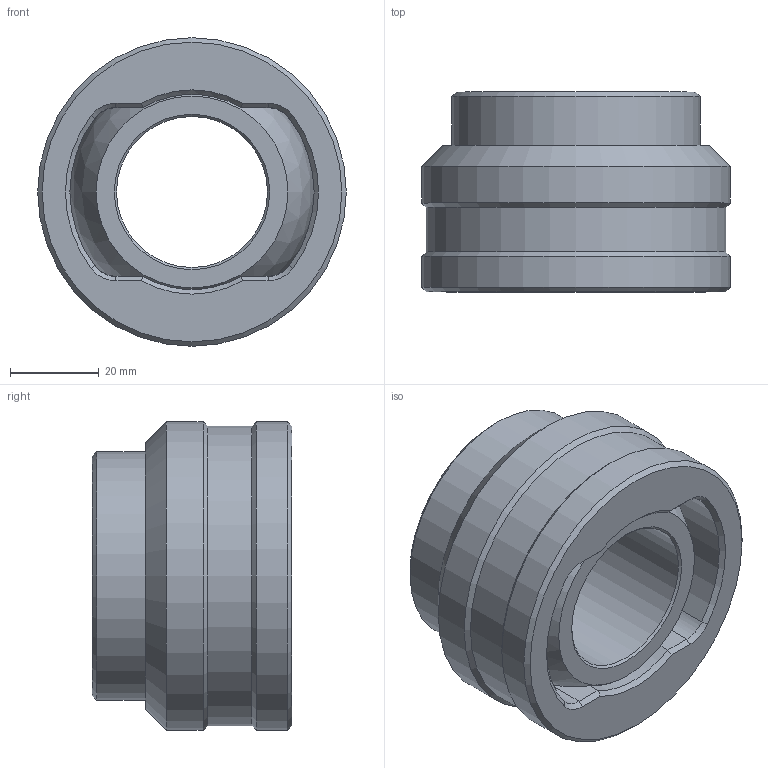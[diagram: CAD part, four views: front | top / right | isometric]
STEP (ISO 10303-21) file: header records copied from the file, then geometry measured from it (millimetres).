
FILE_DESCRIPTION(('STEP AP214'),'1');
FILE_NAME('C:/Projets/Serie 10.xx.xx/10.11.03.step','2011-11-10T15:38:44',(' '),(' '),'Spatial InterOp 3D',' ',' ');
FILE_SCHEMA(('automotive_design'));
Length unit declared in the file: metre
Products named in the file (3): rotule 03; boitier 03; 1
Bounding box: 69.5 x 45 x 69.5 mm (x, y, z)
Volume: 97952.8 mm3; surface area: 30489.2 mm2
Topology: 2 solids, 2 shells, 45 faces, 447 edges, 756 vertices
Faces by surface type: cone 16, cylinder 14, plane 13, sphere 2
Full cylindrical faces by diameter (mm): 34 x1, 44 x1, 56 x1, 67.5 x1, 69.5 x2
Entity records: 5810 total; most frequent: CARTESIAN_POINT 610, DIRECTION 571, STYLED_ITEM 395, PRESENTATION_STYLE_ASSIGNMENT 395, COLOUR_RGB 395, LINE 369, VECTOR 369, TRIMMED_CURVE 350
